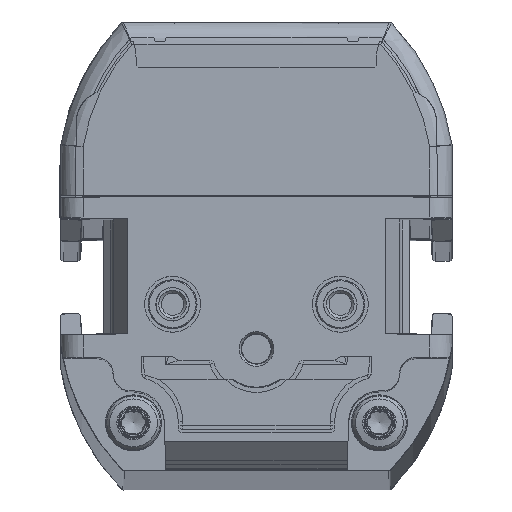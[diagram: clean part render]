
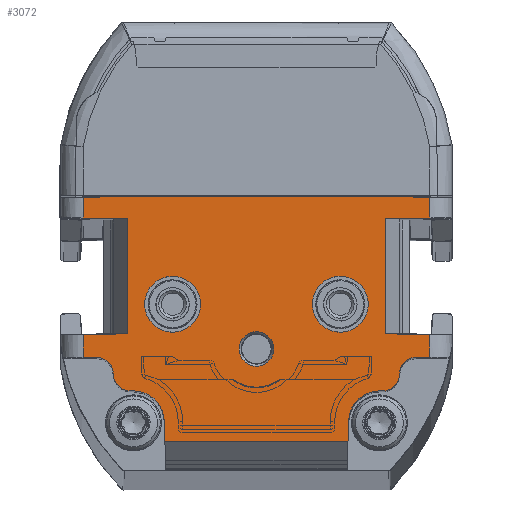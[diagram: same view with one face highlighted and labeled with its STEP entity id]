
A CAD part, top view. The second image highlights one B-rep face of the part: STEP entity #3072.
In plain terms, the highlighted planar face has unit normal (0, 0, 1).
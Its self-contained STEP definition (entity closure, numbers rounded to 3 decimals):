
#1114=FACE_BOUND('',#5176,.T.);
#1115=FACE_BOUND('',#5177,.T.);
#1116=FACE_BOUND('',#5178,.T.);
#1117=FACE_BOUND('',#5179,.T.);
#1770=CIRCLE('',#17081,2.5);
#1771=CIRCLE('',#17083,2.5);
#1772=CIRCLE('',#17085,1.55);
#1775=CIRCLE('',#17155,1.5);
#1776=CIRCLE('',#17156,1.5);
#1777=CIRCLE('',#17157,1.5);
#1778=CIRCLE('',#17158,1.5);
#1779=CIRCLE('',#17159,2.75);
#1780=CIRCLE('',#17160,2.75);
#3072=ADVANCED_FACE('',(#1114,#1115,#1116,#1117),#3619,.T.);
#3619=PLANE('',#17161);
#5176=EDGE_LOOP('',(#8754));
#5177=EDGE_LOOP('',(#8755));
#5178=EDGE_LOOP('',(#8756));
#5179=EDGE_LOOP('',(#8757,#8758,#8759,#8760,#8761,#8762,#8763,#8764,#8765,
#8766,#8767,#8768,#8769,#8770,#8771,#8772,#8773,#8774,#8775,#8776,#8777,
#8778,#8779,#8780,#8781,#8782));
#8754=ORIENTED_EDGE('',*,*,#13124,.T.);
#8755=ORIENTED_EDGE('',*,*,#13123,.F.);
#8756=ORIENTED_EDGE('',*,*,#13122,.F.);
#8757=ORIENTED_EDGE('',*,*,#13244,.F.);
#8758=ORIENTED_EDGE('',*,*,#13245,.T.);
#8759=ORIENTED_EDGE('',*,*,#13246,.T.);
#8760=ORIENTED_EDGE('',*,*,#13247,.T.);
#8761=ORIENTED_EDGE('',*,*,#13175,.T.);
#8762=ORIENTED_EDGE('',*,*,#13121,.T.);
#8763=ORIENTED_EDGE('',*,*,#13118,.T.);
#8764=ORIENTED_EDGE('',*,*,#13117,.T.);
#8765=ORIENTED_EDGE('',*,*,#13243,.T.);
#8766=ORIENTED_EDGE('',*,*,#13248,.F.);
#8767=ORIENTED_EDGE('',*,*,#13249,.F.);
#8768=ORIENTED_EDGE('',*,*,#13250,.F.);
#8769=ORIENTED_EDGE('',*,*,#13237,.T.);
#8770=ORIENTED_EDGE('',*,*,#13113,.F.);
#8771=ORIENTED_EDGE('',*,*,#13109,.T.);
#8772=ORIENTED_EDGE('',*,*,#13108,.F.);
#8773=ORIENTED_EDGE('',*,*,#13148,.T.);
#8774=ORIENTED_EDGE('',*,*,#13251,.F.);
#8775=ORIENTED_EDGE('',*,*,#13252,.T.);
#8776=ORIENTED_EDGE('',*,*,#13253,.T.);
#8777=ORIENTED_EDGE('',*,*,#13254,.F.);
#8778=ORIENTED_EDGE('',*,*,#13255,.F.);
#8779=ORIENTED_EDGE('',*,*,#13256,.F.);
#8780=ORIENTED_EDGE('',*,*,#13156,.T.);
#8781=ORIENTED_EDGE('',*,*,#13257,.F.);
#8782=ORIENTED_EDGE('',*,*,#13258,.F.);
#11153=VERTEX_POINT('',#29650);
#11154=VERTEX_POINT('',#29652);
#11155=VERTEX_POINT('',#29656);
#11156=VERTEX_POINT('',#29660);
#11158=VERTEX_POINT('',#29666);
#11160=VERTEX_POINT('',#29670);
#11161=VERTEX_POINT('',#29674);
#11162=VERTEX_POINT('',#29678);
#11163=VERTEX_POINT('',#29682);
#11164=VERTEX_POINT('',#29685);
#11165=VERTEX_POINT('',#29688);
#11182=VERTEX_POINT('',#29783);
#11187=VERTEX_POINT('',#29797);
#11188=VERTEX_POINT('',#29799);
#11201=VERTEX_POINT('',#29839);
#11235=VERTEX_POINT('',#30091);
#11239=VERTEX_POINT('',#30101);
#11240=VERTEX_POINT('',#30105);
#11241=VERTEX_POINT('',#30106);
#11242=VERTEX_POINT('',#30108);
#11243=VERTEX_POINT('',#30110);
#11244=VERTEX_POINT('',#30113);
#11245=VERTEX_POINT('',#30115);
#11246=VERTEX_POINT('',#30118);
#11247=VERTEX_POINT('',#30120);
#11248=VERTEX_POINT('',#30122);
#11249=VERTEX_POINT('',#30124);
#11250=VERTEX_POINT('',#30126);
#11251=VERTEX_POINT('',#30129);
#13108=EDGE_CURVE('',#11154,#11153,#14677,.T.);
#13109=EDGE_CURVE('',#11155,#11153,#14678,.T.);
#13113=EDGE_CURVE('',#11155,#11156,#14681,.T.);
#13117=EDGE_CURVE('',#11158,#11160,#14684,.T.);
#13118=EDGE_CURVE('',#11161,#11158,#14685,.T.);
#13121=EDGE_CURVE('',#11162,#11161,#14687,.T.);
#13122=EDGE_CURVE('',#11163,#11163,#1770,.T.);
#13123=EDGE_CURVE('',#11164,#11164,#1771,.T.);
#13124=EDGE_CURVE('',#11165,#11165,#1772,.T.);
#13148=EDGE_CURVE('',#11154,#11182,#14702,.T.);
#13156=EDGE_CURVE('',#11187,#11188,#14708,.T.);
#13175=EDGE_CURVE('',#11201,#11162,#14721,.T.);
#13237=EDGE_CURVE('',#11235,#11156,#14764,.T.);
#13243=EDGE_CURVE('',#11160,#11239,#14766,.T.);
#13244=EDGE_CURVE('',#11240,#11241,#14767,.T.);
#13245=EDGE_CURVE('',#11240,#11242,#1775,.T.);
#13246=EDGE_CURVE('',#11242,#11243,#1776,.T.);
#13247=EDGE_CURVE('',#11243,#11201,#14768,.T.);
#13248=EDGE_CURVE('',#11244,#11239,#14769,.T.);
#13249=EDGE_CURVE('',#11245,#11244,#14770,.T.);
#13250=EDGE_CURVE('',#11235,#11245,#14771,.T.);
#13251=EDGE_CURVE('',#11246,#11182,#14772,.T.);
#13252=EDGE_CURVE('',#11246,#11247,#1777,.T.);
#13253=EDGE_CURVE('',#11247,#11248,#1778,.T.);
#13254=EDGE_CURVE('',#11249,#11248,#14773,.T.);
#13255=EDGE_CURVE('',#11250,#11249,#1779,.T.);
#13256=EDGE_CURVE('',#11187,#11250,#14774,.T.);
#13257=EDGE_CURVE('',#11251,#11188,#14775,.T.);
#13258=EDGE_CURVE('',#11241,#11251,#1780,.T.);
#14677=LINE('',#29653,#15840);
#14678=LINE('',#29655,#15841);
#14681=LINE('',#29663,#15844);
#14684=LINE('',#29671,#15847);
#14685=LINE('',#29673,#15848);
#14687=LINE('',#29679,#15850);
#14702=LINE('',#29784,#15865);
#14708=LINE('',#29800,#15871);
#14721=LINE('',#29838,#15884);
#14764=LINE('',#30090,#15927);
#14766=LINE('',#30102,#15929);
#14767=LINE('',#30104,#15930);
#14768=LINE('',#30111,#15931);
#14769=LINE('',#30112,#15932);
#14770=LINE('',#30114,#15933);
#14771=LINE('',#30116,#15934);
#14772=LINE('',#30117,#15935);
#14773=LINE('',#30123,#15936);
#14774=LINE('',#30127,#15937);
#14775=LINE('',#30128,#15938);
#15840=VECTOR('',#20022,1.);
#15841=VECTOR('',#20025,1.);
#15844=VECTOR('',#20032,1.);
#15847=VECTOR('',#20039,1.);
#15848=VECTOR('',#20042,1.);
#15850=VECTOR('',#20048,1.);
#15865=VECTOR('',#20099,1.);
#15871=VECTOR('',#20113,1.);
#15884=VECTOR('',#20152,1.);
#15927=VECTOR('',#20263,1.);
#15929=VECTOR('',#20275,1.);
#15930=VECTOR('',#20278,1.);
#15931=VECTOR('',#20283,1.);
#15932=VECTOR('',#20284,1.);
#15933=VECTOR('',#20285,1.);
#15934=VECTOR('',#20286,1.);
#15935=VECTOR('',#20287,1.);
#15936=VECTOR('',#20292,1.);
#15937=VECTOR('',#20295,1.);
#15938=VECTOR('',#20296,1.);
#17081=AXIS2_PLACEMENT_3D('',#29681,#20051,#20052);
#17083=AXIS2_PLACEMENT_3D('',#29684,#20055,#20056);
#17085=AXIS2_PLACEMENT_3D('',#29687,#20059,#20060);
#17155=AXIS2_PLACEMENT_3D('',#30107,#20279,#20280);
#17156=AXIS2_PLACEMENT_3D('',#30109,#20281,#20282);
#17157=AXIS2_PLACEMENT_3D('',#30119,#20288,#20289);
#17158=AXIS2_PLACEMENT_3D('',#30121,#20290,#20291);
#17159=AXIS2_PLACEMENT_3D('',#30125,#20293,#20294);
#17160=AXIS2_PLACEMENT_3D('',#30130,#20297,#20298);
#17161=AXIS2_PLACEMENT_3D('',#30131,#20299,#20300);
#20022=DIRECTION('',(1.,0.017,0.));
#20025=DIRECTION('',(0.,-1.,0.));
#20032=DIRECTION('',(-1.,0.017,0.));
#20039=DIRECTION('',(1.,0.017,0.));
#20042=DIRECTION('',(0.,1.,0.));
#20048=DIRECTION('',(-1.,0.017,0.));
#20051=DIRECTION('',(0.,0.,1.));
#20052=DIRECTION('',(1.,0.,0.));
#20055=DIRECTION('',(0.,0.,1.));
#20056=DIRECTION('',(1.,0.,0.));
#20059=DIRECTION('',(0.,0.,-1.));
#20060=DIRECTION('',(1.,0.,0.));
#20099=DIRECTION('',(0.,-1.,0.));
#20113=DIRECTION('',(1.,0.,0.));
#20152=DIRECTION('',(0.,1.,0.));
#20263=DIRECTION('',(0.,-1.,0.));
#20275=DIRECTION('',(0.,1.,0.));
#20278=DIRECTION('',(-1.,0.,0.));
#20279=DIRECTION('',(0.,0.,1.));
#20280=DIRECTION('',(1.,0.,0.));
#20281=DIRECTION('',(0.,0.,-1.));
#20282=DIRECTION('',(1.,0.,0.));
#20283=DIRECTION('',(1.,0.,0.));
#20284=DIRECTION('',(1.,-0.017,0.));
#20285=DIRECTION('',(1.,0.,0.));
#20286=DIRECTION('',(1.,0.017,0.));
#20287=DIRECTION('',(-1.,0.,0.));
#20288=DIRECTION('',(0.,0.,-1.));
#20289=DIRECTION('',(1.,0.,0.));
#20290=DIRECTION('',(0.,0.,1.));
#20291=DIRECTION('',(1.,0.,0.));
#20292=DIRECTION('',(-1.,0.,0.));
#20293=DIRECTION('',(0.,0.,1.));
#20294=DIRECTION('',(1.,0.,0.));
#20295=DIRECTION('',(-0.035,0.999,0.));
#20296=DIRECTION('',(-0.035,-0.999,0.));
#20297=DIRECTION('',(0.,0.,1.));
#20298=DIRECTION('',(1.,0.,0.));
#20299=DIRECTION('',(0.,0.,1.));
#20300=DIRECTION('',(1.,0.,0.));
#29650=CARTESIAN_POINT('',(-11.55,12.107,1066.));
#29652=CARTESIAN_POINT('',(-15.5,12.038,1066.));
#29653=CARTESIAN_POINT('',(-17.709,11.999,1066.));
#29655=CARTESIAN_POINT('',(-11.55,0.,1066.));
#29656=CARTESIAN_POINT('',(-11.55,22.393,1066.));
#29660=CARTESIAN_POINT('',(-15.5,22.462,1066.));
#29663=CARTESIAN_POINT('',(-17.107,22.49,1066.));
#29666=CARTESIAN_POINT('',(11.55,22.393,1066.));
#29670=CARTESIAN_POINT('',(15.5,22.462,1066.));
#29671=CARTESIAN_POINT('',(-17.882,21.88,1066.));
#29673=CARTESIAN_POINT('',(11.55,0.,1066.));
#29674=CARTESIAN_POINT('',(11.55,12.107,1066.));
#29678=CARTESIAN_POINT('',(15.5,12.038,1066.));
#29679=CARTESIAN_POINT('',(-17.28,12.61,1066.));
#29681=CARTESIAN_POINT('',(-7.5,14.75,1066.));
#29682=CARTESIAN_POINT('',(-5.,14.75,1066.));
#29684=CARTESIAN_POINT('',(7.5,14.75,1066.));
#29685=CARTESIAN_POINT('',(10.,14.75,1066.));
#29687=CARTESIAN_POINT('',(0.,10.75,1066.));
#29688=CARTESIAN_POINT('',(1.55,10.75,1066.));
#29783=CARTESIAN_POINT('',(-15.5,10.,1066.));
#29784=CARTESIAN_POINT('',(-15.5,0.,1066.));
#29797=CARTESIAN_POINT('',(-8.189,2.5,1066.));
#29799=CARTESIAN_POINT('',(8.189,2.5,1066.));
#29800=CARTESIAN_POINT('',(-17.5,2.5,1066.));
#29838=CARTESIAN_POINT('',(15.5,0.,1066.));
#29839=CARTESIAN_POINT('',(15.5,10.,1066.));
#30090=CARTESIAN_POINT('',(-15.5,0.,1066.));
#30091=CARTESIAN_POINT('',(-15.5,24.317,1066.));
#30101=CARTESIAN_POINT('',(15.5,24.317,1066.));
#30102=CARTESIAN_POINT('',(15.5,0.,1066.));
#30104=CARTESIAN_POINT('',(23.25,7.,1066.));
#30105=CARTESIAN_POINT('',(11.3,7.,1066.));
#30106=CARTESIAN_POINT('',(11.002,7.,1066.));
#30107=CARTESIAN_POINT('',(11.3,8.5,1066.));
#30108=CARTESIAN_POINT('',(12.8,8.5,1066.));
#30109=CARTESIAN_POINT('',(14.3,8.5,1066.));
#30110=CARTESIAN_POINT('',(14.3,10.,1066.));
#30111=CARTESIAN_POINT('',(-17.5,10.,1066.));
#30112=CARTESIAN_POINT('',(-17.066,24.886,1066.));
#30113=CARTESIAN_POINT('',(13.025,24.36,1066.));
#30114=CARTESIAN_POINT('',(-17.5,24.36,1066.));
#30115=CARTESIAN_POINT('',(-13.025,24.36,1066.));
#30116=CARTESIAN_POINT('',(-17.924,24.275,1066.));
#30117=CARTESIAN_POINT('',(-17.5,10.,1066.));
#30118=CARTESIAN_POINT('',(-14.3,10.,1066.));
#30119=CARTESIAN_POINT('',(-14.3,8.5,1066.));
#30120=CARTESIAN_POINT('',(-12.8,8.5,1066.));
#30121=CARTESIAN_POINT('',(-11.3,8.5,1066.));
#30122=CARTESIAN_POINT('',(-11.3,7.,1066.));
#30123=CARTESIAN_POINT('',(-11.,7.,1066.));
#30124=CARTESIAN_POINT('',(-11.002,7.,1066.));
#30125=CARTESIAN_POINT('',(-11.002,4.25,1066.));
#30126=CARTESIAN_POINT('',(-8.253,4.346,1066.));
#30127=CARTESIAN_POINT('',(-8.25,4.25,1066.));
#30128=CARTESIAN_POINT('',(8.25,4.25,1066.));
#30129=CARTESIAN_POINT('',(8.253,4.346,1066.));
#30130=CARTESIAN_POINT('',(11.002,4.25,1066.));
#30131=CARTESIAN_POINT('',(-17.5,0.,1066.));
